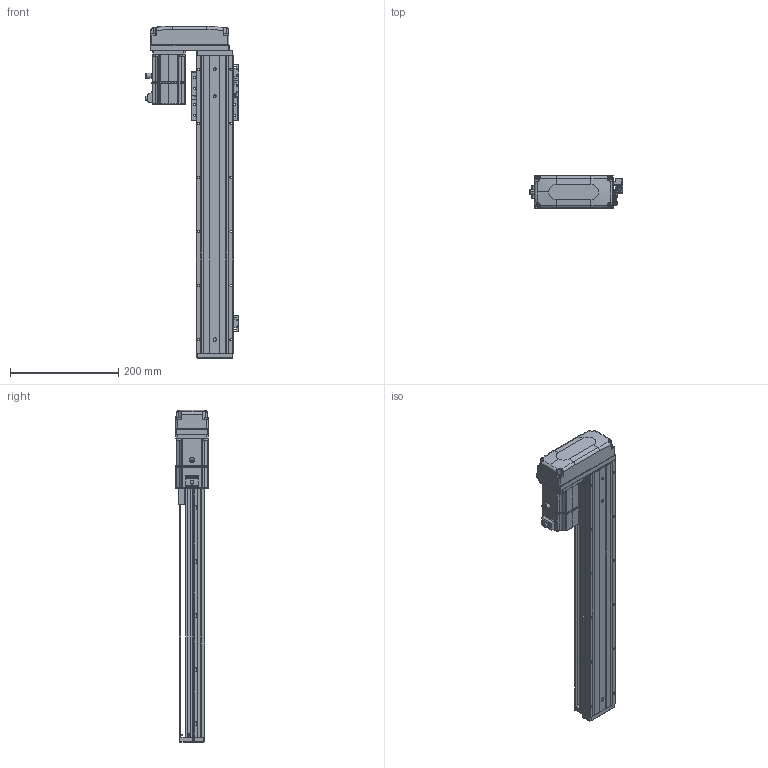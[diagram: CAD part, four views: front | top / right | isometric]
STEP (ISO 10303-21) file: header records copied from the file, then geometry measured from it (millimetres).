
FILE_DESCRIPTION (( 'STEP AP203' ), '1' );
FILE_NAME ('KTHAL60-400-BR-M20-C4L.step', '2022-12-16T02:15:17', ( '微软用户' ), ( '微软中国' ), 'SwSTEP 2.0', 'SolidWorks 2020', '' );
FILE_SCHEMA (( 'CONFIG_CONTROL_DESIGN' ));
Length unit declared in the file: millimetre
Products named in the file (17): KTHAL60-400-BR-M20-C4L; KTHA60-005; GBT77-2000M3-3; GB¨uT 70.2-M3¡Á5_M3¡Á6; GBT 70.1-M3℅6; GBT 70.3-M3℅6; CTHA60-016; EE_SX911P_R; _X2_4E0983F1_X0_200W_1; KTHA60-001_550; CTHA60-017; CTHA60-015-4_CTHA60-015-4; KTHLA60-002; CTHA60-021; GTH80-026; KTHA60-004; GBT 70.1-M4×16
Assembly tree (45 placements, depth 2):
  KTHAL60-400-BR-M20-C4L
    KTHA60-001_550
    KTHLA60-002
    KTHA60-004
    KTHA60-005
    GB¨uT 70.2-M3¡Á5_M3¡Á6  x5
    GBT 70.3-M3℅6  x4
    EE_SX911P_R  x3
    CTHA60-017  x3
    CTHA60-021  x2
    GBT 70.1-M4×16  x8
    GBT77-2000M3-3  x6
    GBT 70.1-M3℅6  x6
    CTHA60-016
    _X2_4E0983F1_X0_200W_1
    CTHA60-015-4_CTHA60-015-4
    GTH80-026
Bounding box: 173.02 x 62.42 x 614 mm (x, y, z)
Volume: 1759765.1 mm3; surface area: 370622.1 mm2
Topology: 48 solids, 48 shells, 2331 faces, 5548 edges, 3409 vertices
Faces by surface type: plane 1247, cylinder 617, cone 268, bspline 103, torus 82, sphere 14
Entity records: 45247 total; most frequent: CARTESIAN_POINT 10154, DIRECTION 6811, ORIENTED_EDGE 6720, EDGE_CURVE 3360, AXIS2_PLACEMENT_3D 2350, LINE 2111, VECTOR 2111, VERTEX_POINT 2093
